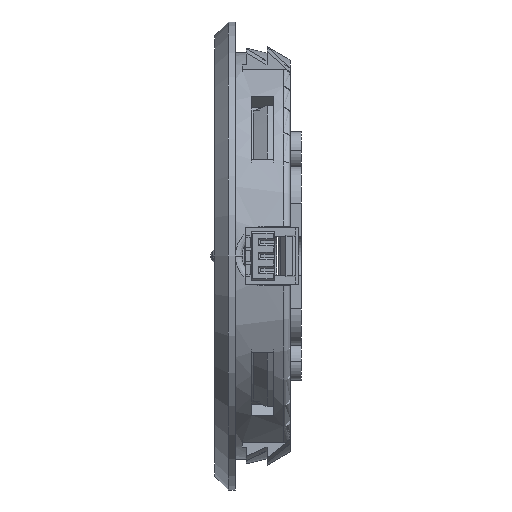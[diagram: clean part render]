
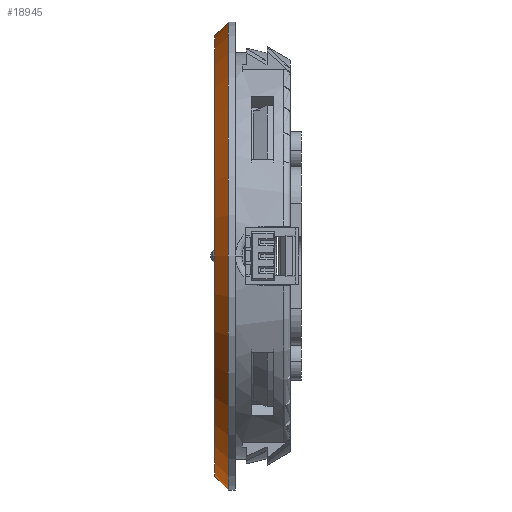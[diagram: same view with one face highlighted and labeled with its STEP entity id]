
A CAD part, left-side view. The second image highlights one B-rep face of the part: STEP entity #18945.
In plain terms, the highlighted conical face has half-angle 45 degrees and reference radius 16 mm.
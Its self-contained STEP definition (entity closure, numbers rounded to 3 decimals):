
#1250 = VERTEX_POINT ( 'NONE', #15397 ) ;
#1285 = DIRECTION ( 'NONE',  ( 0., 0., 1. ) ) ;
#2067 = CARTESIAN_POINT ( 'NONE',  ( 0., 0., 16. ) ) ;
#2332 = CARTESIAN_POINT ( 'NONE',  ( 0., -1., 17. ) ) ;
#2379 = ORIENTED_EDGE ( 'NONE', *, *, #20473, .F. ) ;
#3627 = EDGE_CURVE ( 'NONE', #18932, #20541, #20832, .T. ) ;
#4316 = EDGE_LOOP ( 'NONE', ( #18387, #2379, #6458, #16379 ) ) ;
#4584 = DIRECTION ( 'NONE',  ( 0., 1., 0. ) ) ;
#4771 = DIRECTION ( 'NONE',  ( 0., -1., 0. ) ) ;
#5268 = CIRCLE ( 'NONE', #12162, 17. ) ;
#6145 = AXIS2_PLACEMENT_3D ( 'NONE', #12693, #12462, #15966 ) ;
#6323 = VERTEX_POINT ( 'NONE', #9654 ) ;
#6458 = ORIENTED_EDGE ( 'NONE', *, *, #16091, .T. ) ;
#7964 = DIRECTION ( 'NONE',  ( 0., 0., -1. ) ) ;
#8457 = DIRECTION ( 'NONE',  ( 0., -0.707, -0.707 ) ) ;
#9371 = AXIS2_PLACEMENT_3D ( 'NONE', #20343, #4771, #7964 ) ;
#9654 = CARTESIAN_POINT ( 'NONE',  ( 0., -1., -17. ) ) ;
#10097 = CONICAL_SURFACE ( 'NONE', #9371, 16., 0.785 ) ;
#10500 = DIRECTION ( 'NONE',  ( 0., -0.707, 0.707 ) ) ;
#12162 = AXIS2_PLACEMENT_3D ( 'NONE', #16831, #4584, #1285 ) ;
#12462 = DIRECTION ( 'NONE',  ( 0., 1., 0. ) ) ;
#12693 = CARTESIAN_POINT ( 'NONE',  ( 0., 0., 0. ) ) ;
#14549 = EDGE_CURVE ( 'NONE', #6323, #20541, #5268, .T. ) ;
#15229 = CIRCLE ( 'NONE', #6145, 16. ) ;
#15268 = LINE ( 'NONE', #20385, #18718 ) ;
#15397 = CARTESIAN_POINT ( 'NONE',  ( 0., 0., -16. ) ) ;
#15966 = DIRECTION ( 'NONE',  ( 0., 0., 1. ) ) ;
#16091 = EDGE_CURVE ( 'NONE', #1250, #6323, #15268, .T. ) ;
#16194 = VECTOR ( 'NONE', #10500, 1000. ) ;
#16379 = ORIENTED_EDGE ( 'NONE', *, *, #14549, .T. ) ;
#16557 = FACE_OUTER_BOUND ( 'NONE', #4316, .T. ) ;
#16831 = CARTESIAN_POINT ( 'NONE',  ( 0., -1., 0. ) ) ;
#18387 = ORIENTED_EDGE ( 'NONE', *, *, #3627, .F. ) ;
#18502 = CARTESIAN_POINT ( 'NONE',  ( 0., 0., 16. ) ) ;
#18718 = VECTOR ( 'NONE', #8457, 1000. ) ;
#18932 = VERTEX_POINT ( 'NONE', #18502 ) ;
#18945 = ADVANCED_FACE ( 'NONE', ( #16557 ), #10097, .T. ) ;
#20343 = CARTESIAN_POINT ( 'NONE',  ( 0., 0., 0. ) ) ;
#20385 = CARTESIAN_POINT ( 'NONE',  ( 0., 0., -16. ) ) ;
#20473 = EDGE_CURVE ( 'NONE', #1250, #18932, #15229, .T. ) ;
#20541 = VERTEX_POINT ( 'NONE', #2332 ) ;
#20832 = LINE ( 'NONE', #2067, #16194 ) ;
